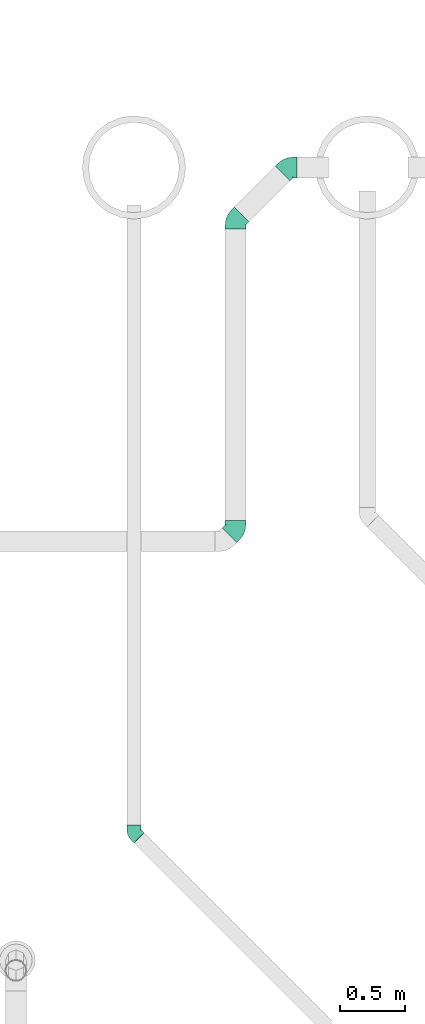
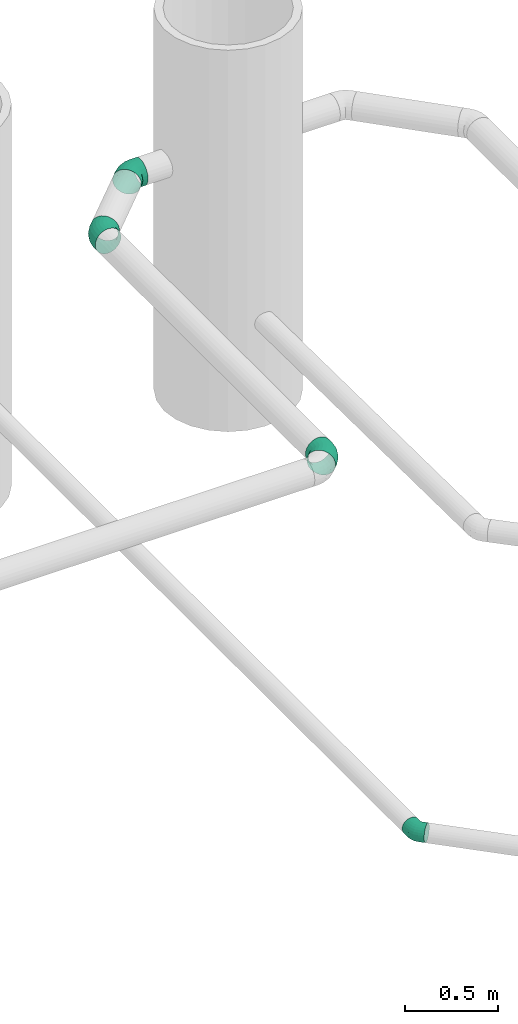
# One storey, part 155 of 374: 4 flow fittings.
"""IFC2X3 building model written with IfcOpenShell, lengths in metres."""

from ifc_helpers import new_model, si_unit, direction, origin, place, context, subcontext, project, spatial, open_shell, surface_model, source, transform, mapped, element, save


model = new_model("IFC2X3")

# Units and contexts
model_context = context("Model", 3, precision=1e-05, world=origin(), true_north=direction((-0.4480736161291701, 0.8939966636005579)))
body_context = subcontext(model_context, "Body", "Model", "MODEL_VIEW")
ifc_project = project(units=[si_unit("LENGTHUNIT", "METRE"), si_unit("AREAUNIT", "SQUARE_METRE"), si_unit("VOLUMEUNIT", "CUBIC_METRE"), si_unit("PLANEANGLEUNIT", "RADIAN"), si_unit("THERMODYNAMICTEMPERATUREUNIT", "KELVIN"), si_unit("MASSUNIT", "GRAM", prefix="KILO"), si_unit("TIMEUNIT", "SECOND")], contexts=[model_context])

# Site, building, storey
site_placement = place(None, origin())
site = spatial("IfcSite", under=ifc_project, at=site_placement, Name="Site 1", CompositionType="ELEMENT")
building_placement = place(site_placement, origin())
building = spatial("IfcBuilding", under=site, at=building_placement, Name="Undefined", CompositionType="ELEMENT")
storey_placement = place(building_placement, origin())
storey = spatial("IfcBuildingStorey", under=building, at=storey_placement, Name="Rez de chauss\x8ee", CompositionType="ELEMENT", Elevation=0.0)

# Flow fittings
shared_shape_1 = source(origin(), body_context, "Body", "SurfaceModel", [
    surface_model("IfcFaceBasedSurfaceModel", [(0.0, 0.014357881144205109, -3.552713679e-15), (0.0, 0.0, 0.0), (0.03509999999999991, 1.776356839e-15, -1.776356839e-15), (0.03509999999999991, 0.014357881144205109, 0.0), (0.0, -0.01386864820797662, -0.0037160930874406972), (0.035100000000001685, -0.01386864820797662, -0.003716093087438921), (0.0, -0.026302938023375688, -0.010895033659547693), (0.03509999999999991, -0.026302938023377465, -0.010895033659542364), (0.0, -0.03645549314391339, -0.021047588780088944), (0.035100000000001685, -0.03645549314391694, -0.021047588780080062), (0.0, -0.04363443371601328, -0.033481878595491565), (0.035100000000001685, -0.043634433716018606, -0.03348187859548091), (0.0, -0.04735052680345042, -0.04735052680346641), (0.03510000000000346, -0.04735052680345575, -0.04735052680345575), (0.0, -0.04735052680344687, -0.06170840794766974), (0.035100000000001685, -0.047350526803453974, -0.061708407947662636), (0.0, -0.04363443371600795, -0.07557705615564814), (0.035100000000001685, -0.04363443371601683, -0.07557705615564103), (0.0, -0.03645549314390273, -0.08801134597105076), (0.035100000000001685, -0.03645549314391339, -0.08801134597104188), (0.0, -0.026302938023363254, -0.0981639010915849), (0.03510000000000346, -0.026302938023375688, -0.09816390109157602), (0.0, -0.013868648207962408, -0.1053428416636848), (0.03510000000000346, -0.013868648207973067, -0.10534284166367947), (0.0, 1.5987211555e-14, -0.10905893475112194), (0.03510000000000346, 5.329070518e-15, -0.10905893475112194), (0.0, 0.014357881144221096, -0.10905893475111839), (0.035100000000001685, 0.014357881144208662, -0.10905893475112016), (0.0, 0.028226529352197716, -0.10534284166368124), (0.03510000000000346, 0.02822652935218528, -0.10534284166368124), (0.0, 0.040660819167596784, -0.0981639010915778), (0.03510000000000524, 0.040660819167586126, -0.09816390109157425), (0.0, 0.05081337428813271, -0.08801134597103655), (0.035100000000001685, 0.050813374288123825, -0.08801134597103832), (0.0, 0.05799231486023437, -0.07557705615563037), (0.035100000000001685, 0.05799231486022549, -0.07557705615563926), (0.0, 0.06170840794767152, -0.06170840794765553), (0.035100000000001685, 0.06170840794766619, -0.06170840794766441), (0.0, 0.061708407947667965, -0.0473505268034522), (0.035100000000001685, 0.061708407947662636, -0.0473505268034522), (0.0, 0.05799231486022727, -0.033481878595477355), (0.03510000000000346, 0.057992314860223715, -0.033481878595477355), (0.0, 0.050813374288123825, -0.021047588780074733), (0.035100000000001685, 0.05081337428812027, -0.021047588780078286), (0.0, 0.04066081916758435, -0.010895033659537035), (0.035100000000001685, 0.040660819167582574, -0.010895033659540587), (0.0, 0.028226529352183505, -0.0037160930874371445), (0.035100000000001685, 0.028226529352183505, -0.003716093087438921), (0.06308504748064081, -0.04369774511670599, -0.06218930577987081), (0.06357009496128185, -0.04363443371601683, -0.04783975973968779), (0.08916296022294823, -0.03298833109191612, -0.0635992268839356), (0.09010000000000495, -0.032739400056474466, -0.04927411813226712), (0.11155657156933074, -0.015952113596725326, -0.06584208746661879), (0.11288174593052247, -0.015407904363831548, -0.051555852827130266), (0.061662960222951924, -0.040167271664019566, -0.07603351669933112), (0.08641569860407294, -0.030002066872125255, -0.07737179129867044), (0.10767135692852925, -0.013831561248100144, -0.07950067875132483), (0.05940074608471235, -0.03328360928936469, -0.08842893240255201), (0.08204543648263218, -0.023984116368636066, -0.0896532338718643), (0.10149087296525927, -0.009190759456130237, -0.09160081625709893), (0.05645257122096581, -0.02351586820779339, -0.09853082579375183), (0.07635000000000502, -0.015344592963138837, -0.09960659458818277), (0.09343630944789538, -0.0023459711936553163, -0.10131789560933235), (0.053019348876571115, -0.011529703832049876, -0.1056507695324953), (0.06971752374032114, -0.004672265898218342, -0.10655356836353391), (0.08405657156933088, 0.006236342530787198, -0.10798971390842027), (0.049335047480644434, 0.0018580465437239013, -0.10930355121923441), (0.06260000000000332, 0.007305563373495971, -0.1100207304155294), (0.07399087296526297, 0.015971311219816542, -0.11116159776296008), (0.0456507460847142, 0.015735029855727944, -0.1092402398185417), (0.05548247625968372, 0.01977262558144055, -0.10977179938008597), (0.0639251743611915, 0.0261955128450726, -0.11061738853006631), (0.042217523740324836, 0.029155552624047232, -0.10546514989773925), (0.04885000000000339, 0.03187931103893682, -0.10582373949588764), (0.05454543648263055, 0.03621218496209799, -0.10639417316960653), (0.03926934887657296, 0.04120502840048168, -0.09823554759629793), (0.043154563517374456, 0.04280056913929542, -0.09844560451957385), (0.046490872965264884, 0.045338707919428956, -0.09877975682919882), (0.03700713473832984, 0.05106230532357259, -0.08804411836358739), (0.03878430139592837, 0.05179213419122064, -0.08814020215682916), (0.04031038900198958, 0.052953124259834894, -0.08829304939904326), (0.03558504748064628, 0.058055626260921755, -0.07558539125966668), (0.03603703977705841, 0.0582412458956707, -0.07560982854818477), (0.03642517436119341, 0.05853652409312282, -0.07564870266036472), (0.035585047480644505, 0.0617717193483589, -0.047358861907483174), (0.036037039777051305, 0.0619573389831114, -0.04738329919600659), (0.03642517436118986, 0.06225261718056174, -0.04742217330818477), (0.037007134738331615, 0.05824124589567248, -0.03351465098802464), (0.03878430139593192, 0.05897107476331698, -0.03361073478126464), (0.04031038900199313, 0.06013206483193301, -0.03376358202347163), (0.039269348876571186, 0.05135758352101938, -0.02111923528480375), (0.04315456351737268, 0.05295312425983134, -0.021329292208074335), (0.046490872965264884, 0.05549126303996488, -0.021663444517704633), (0.04221752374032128, 0.041589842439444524, -0.01101734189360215), (0.04884999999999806, 0.044313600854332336, -0.011375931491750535), (0.054545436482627, 0.04864647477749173, -0.01194636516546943), (0.04565074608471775, 0.029603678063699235, -0.003897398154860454), (0.05548247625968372, 0.03364127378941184, -0.004428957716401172), (0.0639251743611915, 0.040064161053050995, -0.005274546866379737), (0.04933504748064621, 0.016215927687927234, -0.0002446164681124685), (0.06260000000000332, 0.021663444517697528, -0.000961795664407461), (0.07399087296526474, 0.030329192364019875, -0.002102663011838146), (0.05301934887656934, 0.0023389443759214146, -0.0003079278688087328), (0.06971752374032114, 0.009196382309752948, -0.0012107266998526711), (0.08405657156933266, 0.020104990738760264, -0.0026468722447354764), (0.05645257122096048, -0.011081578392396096, -0.004083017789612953), (0.0763499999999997, -0.002910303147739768, -0.0051587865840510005), (0.09343630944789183, 0.010088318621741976, -0.006870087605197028), (0.059400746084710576, -0.023131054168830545, -0.011312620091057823), (0.08204543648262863, -0.01383156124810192, -0.012536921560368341), (0.1014908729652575, 0.0009617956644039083, -0.01448450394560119), (0.0616629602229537, -0.032988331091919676, -0.021504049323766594), (0.0864156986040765, -0.022823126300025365, -0.022842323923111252), (0.10767135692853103, -0.006652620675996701, -0.024971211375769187), (0.06308504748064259, -0.03998165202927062, -0.033962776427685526), (0.08916296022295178, -0.02927223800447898, -0.035372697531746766), (0.1115565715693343, -0.012236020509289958, -0.03761555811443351), (0.1363760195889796, 0.008655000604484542, -0.06908167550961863), (0.13770119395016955, 0.00919920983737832, -0.05479544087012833), (0.13249080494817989, 0.0107755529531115, -0.08274026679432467), (0.12631032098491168, 0.01541635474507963, -0.09484040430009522), (0.11825575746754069, 0.02226114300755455, -0.10455748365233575), (0.1088760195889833, 0.03084345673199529, -0.11122930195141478), (0.09881032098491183, 0.04057842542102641, -0.11440118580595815), (0.08874462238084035, 0.05080262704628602, -0.11385697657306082), (0.07936488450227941, 0.06081929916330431, -0.10963376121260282), (0.07131032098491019, 0.0699458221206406, -0.10201934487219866), (0.06512983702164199, 0.07756023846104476, -0.09153263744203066), (0.06124462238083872, 0.08314363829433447, -0.07888829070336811), (0.059919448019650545, 0.08631552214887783, -0.0649479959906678), (0.06124462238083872, 0.08685973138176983, -0.05066176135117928), (0.06512983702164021, 0.08473917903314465, -0.03700317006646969), (0.07131032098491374, 0.08009837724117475, -0.024903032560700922), (0.07936488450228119, 0.07325358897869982, -0.015185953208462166), (0.0887446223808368, 0.06467127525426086, -0.008514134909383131), (0.09881032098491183, 0.05493630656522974, -0.005342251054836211), (0.10887601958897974, 0.04471210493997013, -0.0058864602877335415), (0.11825575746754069, 0.03469543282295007, -0.010109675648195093), (0.1263103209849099, 0.02556890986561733, -0.017724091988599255), (0.13249080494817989, 0.017954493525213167, -0.0282107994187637), (0.13637601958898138, 0.012371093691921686, -0.04085514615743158)], [open_shell([[[0, 1, 2, 3]], [[1, 4, 5, 2]], [[4, 6, 7, 5]], [[6, 8, 9, 7]], [[8, 10, 11, 9]], [[10, 12, 13, 11]], [[12, 14, 15, 13]], [[14, 16, 17, 15]], [[16, 18, 19, 17]], [[18, 20, 21, 19]], [[20, 22, 23, 21]], [[22, 24, 25, 23]], [[24, 26, 27, 25]], [[26, 28, 29, 27]], [[28, 30, 31, 29]], [[30, 32, 33, 31]], [[32, 34, 35, 33]], [[34, 36, 37, 35]], [[36, 38, 39, 37]], [[38, 40, 41, 39]], [[40, 42, 43, 41]], [[42, 44, 45, 43]], [[44, 46, 47, 45]], [[46, 0, 3, 47]], [[13, 15, 48, 49]], [[49, 48, 50, 51]], [[51, 50, 52, 53]], [[15, 17, 54, 48]], [[48, 54, 55, 50]], [[50, 55, 56, 52]], [[17, 19, 57, 54]], [[54, 57, 58, 55]], [[55, 58, 59, 56]], [[19, 21, 60, 57]], [[57, 60, 61, 58]], [[58, 61, 62, 59]], [[21, 23, 63, 60]], [[60, 63, 64, 61]], [[61, 64, 65, 62]], [[23, 25, 66, 63]], [[63, 66, 67, 64]], [[64, 67, 68, 65]], [[25, 27, 69, 66]], [[66, 69, 70, 67]], [[67, 70, 71, 68]], [[27, 29, 72, 69]], [[69, 72, 73, 70]], [[70, 73, 74, 71]], [[29, 31, 75, 72]], [[72, 75, 76, 73]], [[73, 76, 77, 74]], [[31, 33, 78, 75]], [[75, 78, 79, 76]], [[76, 79, 80, 77]], [[33, 35, 81, 78]], [[78, 81, 82, 79]], [[79, 82, 83, 80]], [[35, 37, 81]], [[81, 37, 82]], [[82, 37, 83]], [[37, 39, 84]], [[37, 84, 85]], [[37, 85, 86]], [[39, 41, 87, 84]], [[84, 87, 88, 85]], [[85, 88, 89, 86]], [[41, 43, 90, 87]], [[87, 90, 91, 88]], [[88, 91, 92, 89]], [[43, 45, 93, 90]], [[90, 93, 94, 91]], [[91, 94, 95, 92]], [[45, 47, 96, 93]], [[93, 96, 97, 94]], [[94, 97, 98, 95]], [[47, 3, 99, 96]], [[96, 99, 100, 97]], [[97, 100, 101, 98]], [[3, 2, 102, 99]], [[99, 102, 103, 100]], [[100, 103, 104, 101]], [[2, 5, 105, 102]], [[102, 105, 106, 103]], [[103, 106, 107, 104]], [[5, 7, 108, 105]], [[105, 108, 109, 106]], [[106, 109, 110, 107]], [[7, 9, 111, 108]], [[108, 111, 112, 109]], [[109, 112, 113, 110]], [[9, 11, 114, 111]], [[111, 114, 115, 112]], [[112, 115, 116, 113]], [[11, 13, 49, 114]], [[114, 49, 51, 115]], [[115, 51, 53, 116]], [[53, 52, 117, 118]], [[52, 56, 119, 117]], [[56, 59, 120, 119]], [[59, 62, 121, 120]], [[62, 65, 122, 121]], [[65, 68, 123, 122]], [[68, 71, 124, 123]], [[71, 74, 125, 124]], [[74, 77, 126, 125]], [[77, 80, 127, 126]], [[80, 83, 128, 127]], [[83, 37, 129, 128]], [[37, 86, 130, 129]], [[86, 89, 131, 130]], [[89, 92, 132, 131]], [[92, 95, 133, 132]], [[95, 98, 134, 133]], [[98, 101, 135, 134]], [[101, 104, 136, 135]], [[104, 107, 137, 136]], [[107, 110, 138, 137]], [[110, 113, 139, 138]], [[113, 116, 140, 139]], [[116, 53, 118, 140]]])]),
])
flow_fitting_1_placement = place(storey_placement, origin())
element("IfcFlowFitting", 1, at=flow_fitting_1_placement, inside=storey, Name="PE-HD coude 45°", ObjectType="PE-HD coude 45°", context=body_context, shape_type="MappedRepresentation", body=[
    mapped(shared_shape_1, transform((35.23783173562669, 22.803848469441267, -1.6073339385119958), x_axis=(-0.7070272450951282, 0.7071067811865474, -0.010605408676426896), y_axis=(0.7029362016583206, 0.701057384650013, -0.11999683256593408), z_axis=(-0.07741557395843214, -0.09229595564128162, -0.9927176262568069))),
])
shared_shape_2 = source(origin(), body_context, "Body", "SurfaceModel", [
    surface_model("IfcFaceBasedSurfaceModel", [(0.0, 0.020884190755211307, 0.0), (0.0, 0.0, 0.0), (0.03280000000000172, -3.552713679e-15, -4.4408921e-16), (0.03280000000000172, 0.0208841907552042, -8.8817842e-16), (0.0, -0.020172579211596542, -0.005405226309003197), (0.03280000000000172, -0.020172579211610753, -0.005405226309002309), (0.0, -0.03825881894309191, -0.015847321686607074), (0.03280000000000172, -0.038258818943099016, -0.015847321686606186), (0.0, -0.05302617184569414, -0.0306146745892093), (0.03280000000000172, -0.05302617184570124, -0.03061467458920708), (0.0, -0.06346826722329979, -0.04870091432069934), (0.03280000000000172, -0.06346826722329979, -0.04870091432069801), (0.0, -0.06887349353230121, -0.06887349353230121), (0.03280000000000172, -0.06887349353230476, -0.06887349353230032), (0.0, -0.06887349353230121, -0.08975768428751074), (0.03280000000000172, -0.06887349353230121, -0.08975768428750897), (0.0, -0.06346826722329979, -0.10993026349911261), (0.03280000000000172, -0.0634682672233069, -0.10993026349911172), (0.0, -0.05302617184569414, -0.12801650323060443), (0.03280000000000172, -0.05302617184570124, -0.12801650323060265), (0.0, -0.038258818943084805, -0.14278385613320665), (0.03280000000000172, -0.038258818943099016, -0.142783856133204), (0.0, -0.020172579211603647, -0.15322595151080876), (0.03280000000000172, -0.0201725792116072, -0.15322595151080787), (0.0, 7.105427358e-15, -0.15863117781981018), (0.03280000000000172, -7.105427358e-15, -0.15863117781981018), (0.0, 0.020884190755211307, -0.15863117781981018), (0.03280000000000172, 0.0208841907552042, -0.15863117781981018), (0.0, 0.04105676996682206, -0.15322595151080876), (0.03280000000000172, 0.04105676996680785, -0.15322595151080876), (0.0, 0.05914300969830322, -0.1427838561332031), (0.03280000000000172, 0.05914300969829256, -0.142783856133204), (0.0, 0.07391036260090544, -0.12801650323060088), (0.03280000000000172, 0.07391036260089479, -0.12801650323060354), (0.0, 0.0843524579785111, -0.10993026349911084), (0.03280000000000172, 0.08435245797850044, -0.1099302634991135), (0.0, 0.08975768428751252, -0.08975768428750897), (0.03280000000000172, 0.08975768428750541, -0.08975768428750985), (0.0, 0.08975768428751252, -0.06887349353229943), (0.03280000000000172, 0.08975768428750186, -0.0688734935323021), (0.0, 0.0843524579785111, -0.048700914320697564), (0.03280000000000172, 0.08435245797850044, -0.048700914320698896), (0.0, 0.07391036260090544, -0.030614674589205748), (0.03280000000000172, 0.07391036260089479, -0.03061467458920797), (0.0, 0.05914300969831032, -0.015847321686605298), (0.03280000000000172, 0.05914300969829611, -0.015847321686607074), (0.0, 0.04105676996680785, -0.005405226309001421), (0.03280000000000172, 0.04105676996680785, -0.005405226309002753), (0.07350552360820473, -0.06356035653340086, -0.09045717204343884), (0.07421104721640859, -0.06346826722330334, -0.0695851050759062), (0.11143703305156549, -0.04798302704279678, -0.09250796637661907), (0.11280000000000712, -0.04762094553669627, -0.07167144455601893), (0.14400955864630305, -0.023203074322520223, -0.09577030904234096), (0.14593708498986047, -0.02241149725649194, -0.07499033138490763), (0.07143703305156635, -0.058425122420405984, -0.11059420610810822), (0.1074410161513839, -0.043639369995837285, -0.1125407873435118), (0.13835833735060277, -0.020118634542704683, -0.11563735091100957), (0.06814653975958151, -0.04841252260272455, -0.12862390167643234), (0.10108427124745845, -0.034885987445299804, -0.13040470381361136), (0.12936854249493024, -0.013368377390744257, -0.13323755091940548), (0.06385828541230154, -0.03420489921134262, -0.14331756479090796), (0.09279999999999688, -0.02231940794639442, -0.14488231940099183), (0.11765281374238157, -0.0034123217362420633, -0.14737148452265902), (0.05886450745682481, -0.01677047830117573, -0.15367384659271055), (0.08315276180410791, -0.0067960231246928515, -0.15498700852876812), (0.1040095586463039, 0.009071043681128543, -0.15707594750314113), (0.0535055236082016, 0.002702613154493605, -0.15898698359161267), (0.07280000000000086, 0.010626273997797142, -0.16003015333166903), (0.08936854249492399, 0.023230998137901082, -0.16168959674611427), (0.04814653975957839, 0.02288731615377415, -0.15889489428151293), (0.06244723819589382, 0.028760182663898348, -0.15966807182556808), (0.07472752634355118, 0.03810256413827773, -0.16089801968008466), (0.043152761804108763, 0.042408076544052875, -0.1534038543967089), (0.05280000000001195, 0.04636990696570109, -0.15392543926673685), (0.061084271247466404, 0.05267226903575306, -0.15475516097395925), (0.038864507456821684, 0.05993458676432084, -0.1428880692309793), (0.04451572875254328, 0.062255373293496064, -0.143193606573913), (0.04936854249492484, 0.06594721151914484, -0.14367964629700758), (0.035574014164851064, 0.07427244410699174, -0.12806417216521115), (0.03815898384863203, 0.07533401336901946, -0.12820393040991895), (0.04037874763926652, 0.07702272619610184, -0.1284262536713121), (0.03350552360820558, 0.08444454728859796, -0.10994238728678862), (0.03416296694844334, 0.08471453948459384, -0.10997793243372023), (0.03472752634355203, 0.08514403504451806, -0.11003447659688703), (0.03350552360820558, 0.08984977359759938, -0.06888561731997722), (0.03416296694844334, 0.09011976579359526, -0.06892116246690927), (0.03472752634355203, 0.09054926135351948, -0.06897770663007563), (0.035574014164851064, 0.0847145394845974, -0.04874858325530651), (0.03815898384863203, 0.08577610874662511, -0.04888834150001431), (0.04037874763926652, 0.0874648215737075, -0.04911066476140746), (0.038864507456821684, 0.07470193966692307, -0.030718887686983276), (0.04451572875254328, 0.07702272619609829, -0.031024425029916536), (0.04936854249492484, 0.08071456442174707, -0.03151046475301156), (0.043152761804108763, 0.06049431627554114, -0.016025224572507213), (0.05280000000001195, 0.06445614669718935, -0.01654680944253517), (0.061084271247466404, 0.07075850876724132, -0.017376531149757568), (0.04814653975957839, 0.0430598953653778, -0.0056689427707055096), (0.06244723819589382, 0.048932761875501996, -0.006442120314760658), (0.07472752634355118, 0.058275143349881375, -0.007672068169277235), (0.0535055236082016, 0.023586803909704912, -0.0003558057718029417), (0.07280000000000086, 0.03151046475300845, -0.0013989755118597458), (0.08936854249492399, 0.04411518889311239, -0.0030584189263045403), (0.05886450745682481, 0.0034021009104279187, -0.0004478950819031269), (0.08315276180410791, 0.013376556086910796, -0.0017610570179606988), (0.1040095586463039, 0.02924362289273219, -0.00384999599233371), (0.06385828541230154, -0.016118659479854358, -0.0059389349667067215), (0.09279999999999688, -0.004233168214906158, -0.007503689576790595), (0.11765281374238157, 0.0146739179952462, -0.009992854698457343), (0.06814653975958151, -0.033645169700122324, -0.016454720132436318), (0.10108427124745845, -0.020118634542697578, -0.01823552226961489), (0.12936854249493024, 0.0013989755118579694, -0.021068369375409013), (0.07143703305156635, -0.04798302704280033, -0.03127861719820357), (0.1074410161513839, -0.03319727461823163, -0.03322519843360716), (0.13835833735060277, -0.00967653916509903, -0.03632176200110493), (0.07350552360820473, -0.05815513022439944, -0.04940040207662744), (0.11143703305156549, -0.04257780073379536, -0.051451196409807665), (0.14400955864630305, -0.017797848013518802, -0.05471353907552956), (0.16720266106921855, -0.00020839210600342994, -0.09879761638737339), (0.16913018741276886, 0.0005831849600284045, -0.07801763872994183), (0.16155143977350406, 0.0028760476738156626, -0.11866465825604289), (0.15256164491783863, 0.009626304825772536, -0.1362648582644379), (0.14084591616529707, 0.019582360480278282, -0.15039879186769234), (0.1272026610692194, 0.03206572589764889, -0.16010325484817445), (0.11256164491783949, 0.046225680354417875, -0.16471690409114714), (0.09792062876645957, 0.06109724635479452, -0.16392532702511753), (0.0842773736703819, 0.07566695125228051, -0.15778246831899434), (0.07256164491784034, 0.08894189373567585, -0.14670695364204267), (0.06357185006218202, 0.10001740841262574, -0.1314535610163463), (0.057920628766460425, 0.10813871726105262, -0.11306178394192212), (0.05599310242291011, 0.1127523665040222, -0.09278499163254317), (0.057920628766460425, 0.11354394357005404, -0.07200501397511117), (0.06357185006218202, 0.1104595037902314, -0.052137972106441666), (0.07256164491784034, 0.10370924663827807, -0.03453777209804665), (0.0842773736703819, 0.09375319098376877, -0.02040383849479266), (0.09792062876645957, 0.08126982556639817, -0.010699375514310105), (0.11256164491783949, 0.06710987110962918, -0.006085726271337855), (0.1272026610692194, 0.052238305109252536, -0.0068773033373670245), (0.14084591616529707, 0.037668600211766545, -0.013020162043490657), (0.15256164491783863, 0.024393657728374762, -0.024095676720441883), (0.16155143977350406, 0.013318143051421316, -0.039349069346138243), (0.16720266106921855, 0.005196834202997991, -0.05774084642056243)], [open_shell([[[0, 1, 2, 3]], [[1, 4, 5, 2]], [[4, 6, 7, 5]], [[6, 8, 9, 7]], [[8, 10, 11, 9]], [[10, 12, 13, 11]], [[12, 14, 15, 13]], [[14, 16, 17, 15]], [[16, 18, 19, 17]], [[18, 20, 21, 19]], [[20, 22, 23, 21]], [[22, 24, 25, 23]], [[24, 26, 27, 25]], [[26, 28, 29, 27]], [[28, 30, 31, 29]], [[30, 32, 33, 31]], [[32, 34, 35, 33]], [[34, 36, 37, 35]], [[36, 38, 39, 37]], [[38, 40, 41, 39]], [[40, 42, 43, 41]], [[42, 44, 45, 43]], [[44, 46, 47, 45]], [[46, 0, 3, 47]], [[13, 15, 48, 49]], [[49, 48, 50, 51]], [[51, 50, 52, 53]], [[15, 17, 54, 48]], [[48, 54, 55, 50]], [[50, 55, 56, 52]], [[17, 19, 57, 54]], [[54, 57, 58, 55]], [[55, 58, 59, 56]], [[19, 21, 60, 57]], [[57, 60, 61, 58]], [[58, 61, 62, 59]], [[21, 23, 63, 60]], [[60, 63, 64, 61]], [[61, 64, 65, 62]], [[23, 25, 66, 63]], [[63, 66, 67, 64]], [[64, 67, 68, 65]], [[25, 27, 69, 66]], [[66, 69, 70, 67]], [[67, 70, 71, 68]], [[27, 29, 72, 69]], [[69, 72, 73, 70]], [[70, 73, 74, 71]], [[29, 31, 75, 72]], [[72, 75, 76, 73]], [[73, 76, 77, 74]], [[31, 33, 78, 75]], [[75, 78, 79, 76]], [[76, 79, 80, 77]], [[33, 35, 81, 78]], [[78, 81, 82, 79]], [[79, 82, 83, 80]], [[35, 37, 81]], [[81, 37, 82]], [[82, 37, 83]], [[37, 39, 84]], [[37, 84, 85]], [[37, 85, 86]], [[39, 41, 87, 84]], [[84, 87, 88, 85]], [[85, 88, 89, 86]], [[41, 43, 90, 87]], [[87, 90, 91, 88]], [[88, 91, 92, 89]], [[43, 45, 93, 90]], [[90, 93, 94, 91]], [[91, 94, 95, 92]], [[45, 47, 96, 93]], [[93, 96, 97, 94]], [[94, 97, 98, 95]], [[47, 3, 99, 96]], [[96, 99, 100, 97]], [[97, 100, 101, 98]], [[3, 2, 102, 99]], [[99, 102, 103, 100]], [[100, 103, 104, 101]], [[2, 5, 105, 102]], [[102, 105, 106, 103]], [[103, 106, 107, 104]], [[5, 7, 108, 105]], [[105, 108, 109, 106]], [[106, 109, 110, 107]], [[7, 9, 111, 108]], [[108, 111, 112, 109]], [[109, 112, 113, 110]], [[9, 11, 114, 111]], [[111, 114, 115, 112]], [[112, 115, 116, 113]], [[11, 13, 49, 114]], [[114, 49, 51, 115]], [[115, 51, 53, 116]], [[53, 52, 117, 118]], [[52, 56, 119, 117]], [[56, 59, 120, 119]], [[59, 62, 121, 120]], [[62, 65, 122, 121]], [[65, 68, 123, 122]], [[68, 71, 124, 123]], [[71, 74, 125, 124]], [[74, 77, 126, 125]], [[77, 80, 127, 126]], [[80, 83, 128, 127]], [[83, 37, 129, 128]], [[37, 86, 130, 129]], [[86, 89, 131, 130]], [[89, 92, 132, 131]], [[92, 95, 133, 132]], [[95, 98, 134, 133]], [[98, 101, 135, 134]], [[101, 104, 136, 135]], [[104, 107, 137, 136]], [[107, 110, 138, 137]], [[110, 113, 139, 138]], [[113, 116, 140, 139]], [[116, 53, 118, 140]]])]),
])
flow_fitting_2_placement = place(storey_placement, origin())
element("IfcFlowFitting", 2, at=flow_fitting_2_placement, inside=storey, Name="PE-HD coude 45°", ObjectType="PE-HD coude 45°", context=body_context, shape_type="MappedRepresentation", body=[
    mapped(shared_shape_2, transform((36.46905876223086, 28.022144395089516, -0.7163137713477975), x_axis=(-1.0, 0.0, 0.0), y_axis=(7.266545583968e-12, -0.9914448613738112, 0.13052619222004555), z_axis=(0.0, 0.13052619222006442, 0.9914448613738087))),
])
flow_fitting_3_placement = place(storey_placement, origin())
element("IfcFlowFitting", 3, at=flow_fitting_3_placement, inside=storey, Name="PE-HD coude 45°", ObjectType="PE-HD coude 45°", context=body_context, shape_type="MappedRepresentation", body=[
    mapped(shared_shape_2, transform((36.02430476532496, 27.651903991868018, -0.7163137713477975), x_axis=(-0.7071067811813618, -0.7071067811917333, 1.4287841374e-14), y_axis=(0.7010573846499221, -0.7010573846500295, 0.13052619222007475), z_axis=(-0.09229595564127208, 0.09229595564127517, 0.9914448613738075))),
])
flow_fitting_4_placement = place(storey_placement, origin())
element("IfcFlowFitting", 4, at=flow_fitting_4_placement, inside=storey, Name="PE-HD coude 45°", ObjectType="PE-HD coude 45°", context=body_context, shape_type="MappedRepresentation", body=[
    mapped(shared_shape_2, transform((36.013026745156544, 25.269153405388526, -0.8708619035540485), x_axis=(0.0, -1.0, 0.0), y_axis=(-0.9914448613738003, 0.0, -0.13052619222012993), z_axis=(0.130526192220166, 0.0, -0.9914448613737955))),
])

save(model, "model.ifc")
